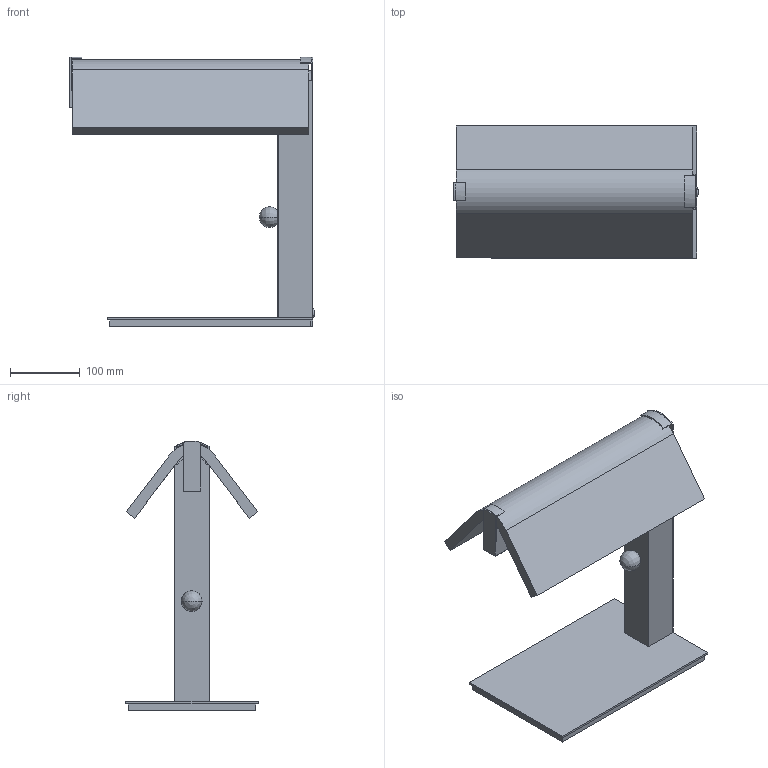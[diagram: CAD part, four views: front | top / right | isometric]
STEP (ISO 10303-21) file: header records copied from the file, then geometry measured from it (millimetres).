
FILE_DESCRIPTION(/* description */ (''),/* implementation_level */ '2;1');
FILE_NAME(/* name */ 'TACTIL~1',/* time_stamp */ '2017-11-27T10:42:55+01:00',/* author */ (''),/* organization */ (''),/* preprocessor_version */ 'ST-DEVELOPER v15',/* originating_system */ '',/* authorisation */ '');
FILE_SCHEMA (('AUTOMOTIVE_DESIGN'));
Length unit declared in the file: millimetre
Products named in the file (1): Document
Bounding box: 350.98 x 190 x 388.02 mm (x, y, z)
Surface area: 508140.4 mm2
Topology: 1 solids, 2 shells, 132 faces, 374 edges, 231 vertices
Faces by surface type: plane 94, bspline 38
Entity records: 4331 total; most frequent: CARTESIAN_POINT 1991, ORIENTED_EDGE 728, EDGE_CURVE 372, B_SPLINE_CURVE_WITH_KNOTS 267, VERTEX_POINT 231, EDGE_LOOP 139, ADVANCED_FACE 132, FACE_OUTER_BOUND 132
